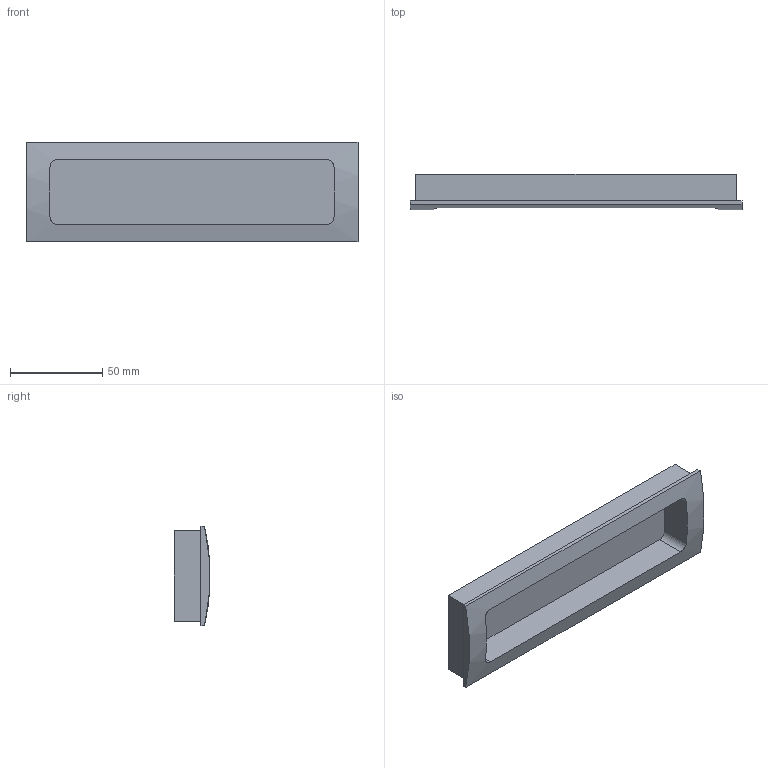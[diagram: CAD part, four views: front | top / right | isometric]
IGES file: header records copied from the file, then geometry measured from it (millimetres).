
Start section: Data from Parasolid IGES Translator 15.0.47, Copyright(c) 2006 Siemens P LM Software. All Rights Reserved.
Global section: file name: 115183.igs; native system:  By UGS Corp.; preprocessor: XPlus GENERIC/IGES 3.0; author: Noname; organization: Noname; date: 20140122.180739; units: millimetre
Bounding box: 180 x 19.42 x 54 mm (x, y, z)
Surface area: 33462 mm2 (no closed solid volume)
Topology: 0 solids, 0 shells, 24 faces, 108 edges, 106 vertices
Faces by surface type: extrusion 17, revolution 7
